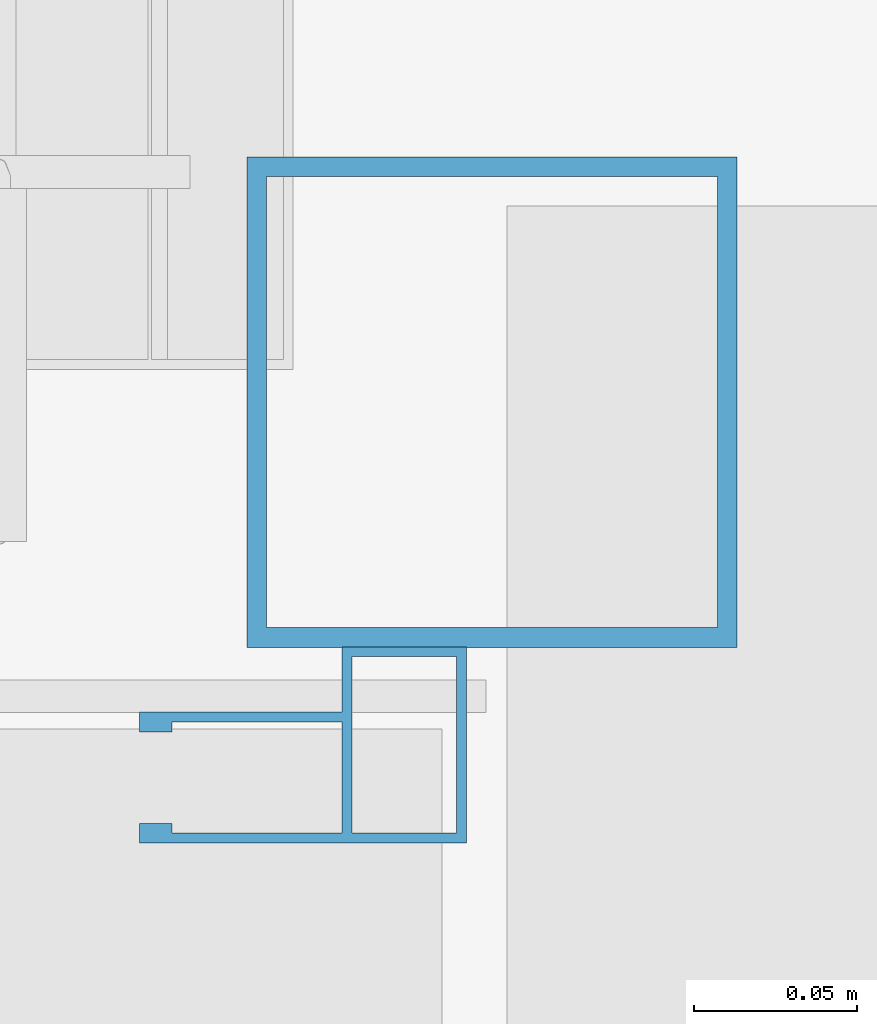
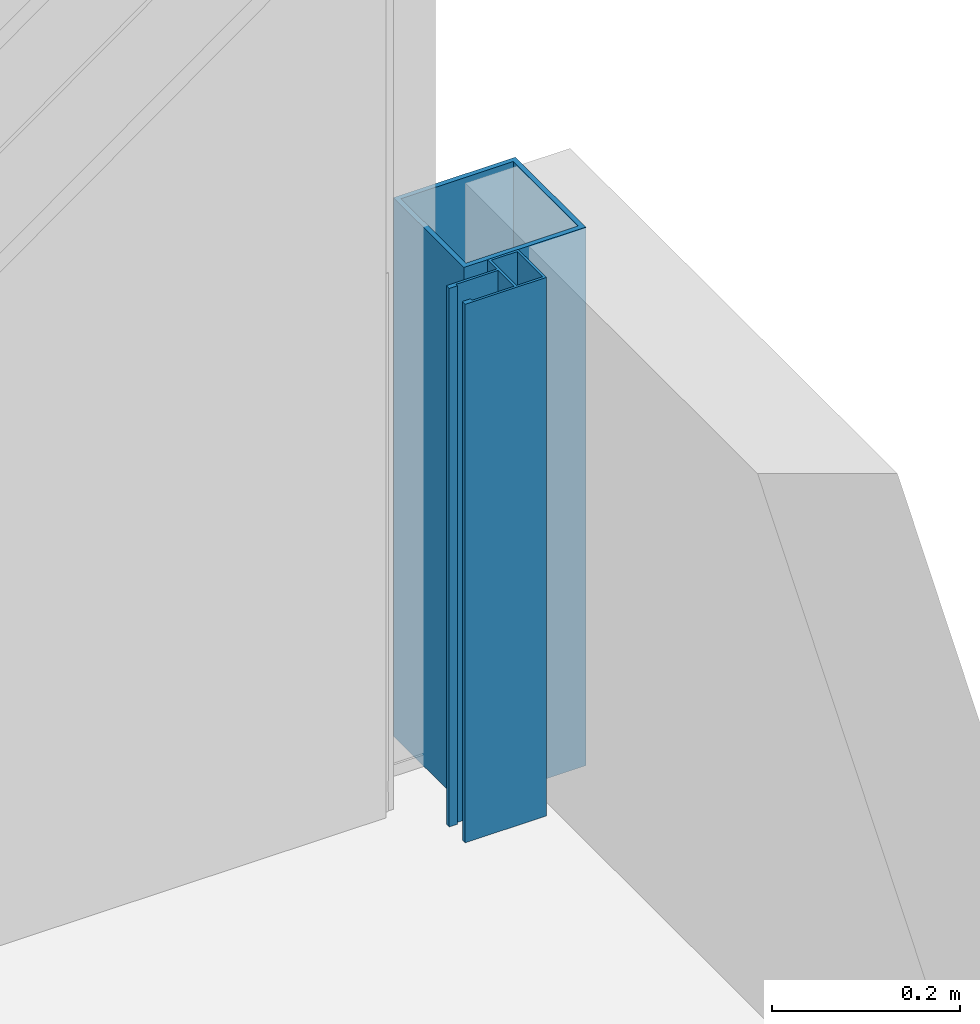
# One storey, part 3 of 26: 2 columns.
"""IFC2X3 building model written with IfcOpenShell, lengths in millimetres."""

from ifc_helpers import new_model, entity, si_unit, converted_unit, derived_unit, direction, frame, origin, origin_with_axes, place, context, subcontext, project, spatial, polyline, outline, extrude, faceted_brep, source, transform, mapped, material, type_object, element, save


model = new_model("IFC2X3")

# Units and contexts
model_context = context("Model", 3, precision=0.01, world=frame((0.0, 4.29681676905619e-09, 0.0)), true_north=direction((4.01073788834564e-13, 1.0)))
plan_context = context("Plan", 3, precision=0.01, world=frame((0.0, 4.29681676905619e-09, 0.0)), true_north=direction((4.01073788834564e-13, 1.0)))
body_context = subcontext(model_context, "Body", "Model", "MODEL_VIEW")
ifc_project = project(units=[converted_unit("PLANEANGLEUNIT", "DEGREE", entity("IfcPositiveLengthMeasure", 0.0174532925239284), si_unit("PLANEANGLEUNIT", "RADIAN"), dimensions=[0, 0, 0, 0, 0, 0, 0]), si_unit("AREAUNIT", "SQUARE_METRE"), si_unit("LENGTHUNIT", "METRE", prefix="MILLI"), si_unit("MASSUNIT", "GRAM", prefix="KILO"), si_unit("POWERUNIT", "WATT"), si_unit("PRESSUREUNIT", "PASCAL", prefix="KILO"), si_unit("FORCEUNIT", "NEWTON", prefix="KILO"), si_unit("ELECTRICVOLTAGEUNIT", "VOLT"), si_unit("ELECTRICCURRENTUNIT", "AMPERE"), si_unit("THERMODYNAMICTEMPERATUREUNIT", "DEGREE_CELSIUS"), si_unit("TIMEUNIT", "SECOND"), si_unit("VOLUMEUNIT", "CUBIC_METRE"), derived_unit("LINEARVELOCITYUNIT", [(si_unit("LENGTHUNIT", "METRE"), 1), (si_unit("TIMEUNIT", "SECOND"), -1)]), derived_unit("VOLUMETRICFLOWRATEUNIT", [(si_unit("VOLUMEUNIT", "CUBIC_METRE"), 1), (si_unit("TIMEUNIT", "SECOND"), -1)]), derived_unit("THERMALTRANSMITTANCEUNIT", [(si_unit("POWERUNIT", "WATT"), 1), (si_unit("THERMODYNAMICTEMPERATUREUNIT", "KELVIN"), -1), (si_unit("AREAUNIT", "SQUARE_METRE"), -1)]), derived_unit("SOUNDPRESSUREUNIT", [(si_unit("PRESSUREUNIT", "PASCAL"), 1)])], contexts=[model_context, plan_context])

# Site, building, storey
site_placement = place(None, origin_with_axes())
site = spatial("IfcSite", under=ifc_project, at=site_placement, Name="ENGM", CompositionType="ELEMENT")
building_placement = place(site_placement, origin_with_axes())
building = spatial("IfcBuilding", under=site, at=building_placement, Name="TG", CompositionType="ELEMENT")
storey_placement = place(building_placement, frame((0.0, 0.0, 210200.0), z_axis=(0.0, 0.0, 1.0), x_axis=(1.0, 0.0, 0.0)))
storey = spatial("IfcBuildingStorey", under=building, at=storey_placement, Name="Nivå F - 0,7 m", CompositionType="ELEMENT", Elevation=210200.0)

# Columns
ifc_material = material(Name="_NSW Stål")
column_type_1 = type_object("IfcColumnType", Name="B222 - HUP (Oppsveiset):B222 - HUP oppsveiset - 150 x 150 x 6 mm 2", PredefinedType="COLUMN", material=ifc_material)
shared_shape_1 = source(origin(), body_context, "Body", "SweptSolid", [
    extrude(outline(polyline([(-75.0, -75.0), (75.0, -75.0), (75.0, 75.0), (-75.0, 75.0), (-75.0, -75.0)]), holes=[polyline([(-69.0, -69.0), (-69.0, 69.0), (69.0, 69.0), (69.0, -69.0), (-69.0, -69.0)])]), frame((0.0, 0.0, 210200.0), z_axis=(0.0, 0.0, 1.0), x_axis=(0.0, 1.0, 0.0)), (0.0, 0.0, 1.0), 700.000000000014),
])
column_1_placement = place(storey_placement, frame((348930.895898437, 467339.999999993, -210200.0), z_axis=(0.0, 0.0, 1.0), x_axis=(1.0, 0.0, 0.0)))
element("IfcColumn", 1, at=column_1_placement, inside=storey, type_object=column_type_1, material=ifc_material, Name="B222 - HUP (Oppsveiset):B222 - HUP oppsveiset - 150 x 150 x 6 mm 2", ObjectType="B222 - HUP (Oppsveiset):B222 - HUP oppsveiset - 150 x 150 x 6 mm 2", context=body_context, shape_type="MappedRepresentation", body=[
    mapped(shared_shape_1, transform((0.0, 0.0, 0.0), scale=1.0)),
])
column_type_2 = type_object("IfcColumnType", Name="A243 - Rullegardinskinner:A243 - Portskinne Trav Val Innl", PredefinedType="COLUMN", material=ifc_material)
shared_shape_2 = source(origin(), body_context, "Body", "Brep", [
    faceted_brep([(-20.0, -100.0, 210200.0), (-20.0, -38.0, 210200.0), (-40.0, -38.0, 210200.0), (-40.0, 0.0, 210200.0), (20.0, 0.0, 210200.0), (20.0, -100.0, 210200.0), (14.0, -100.0, 210200.0), (14.0, -90.0, 210200.0), (17.0, -90.0, 210200.0), (17.0, -38.0, 210200.0), (-17.0, -38.0, 210200.0), (-17.0, -90.0, 210200.0), (-14.0, -90.0, 210200.0), (-14.0, -100.0, 210200.0), (-37.0, -3.0, 210200.0), (-37.0, -35.0, 210200.0), (17.0, -35.0, 210200.0), (17.0, -3.0, 210200.0), (-14.0, -100.0, 210900.0), (-20.0, -100.0, 210900.0), (-14.0, -90.0, 210900.0), (-17.0, -90.0, 210900.0), (-17.0, -38.0, 210900.0), (17.0, -38.0, 210900.0), (17.0, -90.0, 210900.0), (14.0, -90.0, 210900.0), (14.0, -100.0, 210900.0), (20.0, -100.0, 210900.0), (20.0, 0.0, 210900.0), (-40.0, 0.0, 210900.0), (-40.0, -38.0, 210900.0), (-20.0, -38.0, 210900.0), (17.0, -3.0, 210900.0), (-37.0, -3.0, 210900.0), (17.0, -35.0, 210900.0), (-37.0, -35.0, 210900.0)], [[[0, 1, 2, 3, 4, 5, 6, 7, 8, 9, 10, 11, 12, 13], [14, 15, 16, 17]], [[0, 13, 18, 19]], [[13, 12, 20, 18]], [[12, 11, 21, 20]], [[11, 10, 22, 21]], [[10, 9, 23, 22]], [[9, 8, 24, 23]], [[8, 7, 25, 24]], [[7, 6, 26, 25]], [[6, 5, 27, 26]], [[5, 4, 28, 27]], [[4, 3, 29, 28]], [[3, 2, 30, 29]], [[2, 1, 31, 30]], [[1, 0, 19, 31]], [[14, 17, 32, 33]], [[17, 16, 34, 32]], [[16, 15, 35, 34]], [[15, 14, 33, 35]], [[19, 18, 20, 21, 22, 23, 24, 25, 26, 27, 28, 29, 30, 31], [33, 32, 34, 35]]]),
])
column_2_placement = place(storey_placement, frame((348923.000000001, 467225.1541288, -210200.0), z_axis=(0.0, 0.0, 1.0), x_axis=(0.0, -1.0, 0.0)))
element("IfcColumn", 2, at=column_2_placement, inside=storey, type_object=column_type_2, material=ifc_material, Name="A243 - Rullegardinskinner:A243 - Portskinne Trav Val Innl", ObjectType="A243 - Rullegardinskinner:A243 - Portskinne Trav Val Innl", context=body_context, shape_type="MappedRepresentation", body=[
    mapped(shared_shape_2, transform((0.0, 0.0, 0.0), scale=1.0)),
])

save(model, "model.ifc")
